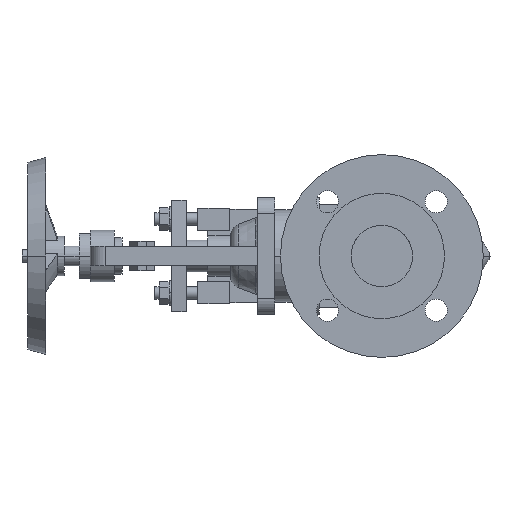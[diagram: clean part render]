
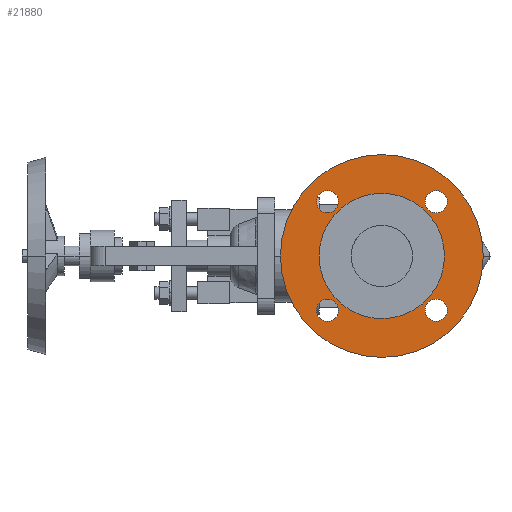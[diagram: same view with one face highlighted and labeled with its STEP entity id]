
A CAD part, left-side view. The second image highlights one B-rep face of the part: STEP entity #21880.
In plain terms, the highlighted planar face has unit normal (-1, 0, 0).
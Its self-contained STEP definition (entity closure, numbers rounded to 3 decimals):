
#3160=CARTESIAN_POINT('',(3.,-51.,0.));
#3170=VERTEX_POINT('',#3160);
#3200=CARTESIAN_POINT('',(3.,0.,0.));
#3210=DIRECTION('',(-1.,0.,0.));
#3220=DIRECTION('',(0.,1.,0.));
#3230=AXIS2_PLACEMENT_3D('',#3200,#3210,#3220);
#3240=CIRCLE('',#3230,51.);
#3250=CARTESIAN_POINT('',(3.,51.,0.));
#3260=VERTEX_POINT('',#3250);
#3270=EDGE_CURVE('',#3260,#3170,#3240,.T.);
#4670=CARTESIAN_POINT('',(3.,0.,82.5));
#4680=VERTEX_POINT('',#4670);
#4710=CARTESIAN_POINT('',(3.,0.,0.));
#4720=DIRECTION('',(1.,0.,0.));
#4730=DIRECTION('',(0.,0.,-1.));
#4740=AXIS2_PLACEMENT_3D('',#4710,#4720,#4730);
#4750=CIRCLE('',#4740,82.5);
#4760=CARTESIAN_POINT('',(3.,0.,-82.5));
#4770=VERTEX_POINT('',#4760);
#4780=EDGE_CURVE('',#4770,#4680,#4750,.T.);
#5160=CARTESIAN_POINT('',(3.,44.194,-53.194));
#5170=VERTEX_POINT('',#5160);
#5200=CARTESIAN_POINT('',(3.,44.194,-44.194));
#5210=DIRECTION('',(1.,0.,0.));
#5220=DIRECTION('',(0.,0.,-1.));
#5230=AXIS2_PLACEMENT_3D('',#5200,#5210,#5220);
#5240=CIRCLE('',#5230,9.);
#5250=CARTESIAN_POINT('',(3.,44.194,-35.194));
#5260=VERTEX_POINT('',#5250);
#5270=EDGE_CURVE('',#5170,#5260,#5240,.T.);
#5650=CARTESIAN_POINT('',(3.,-44.194,-53.194));
#5660=VERTEX_POINT('',#5650);
#5820=CARTESIAN_POINT('',(3.,-44.194,-35.194));
#5830=VERTEX_POINT('',#5820);
#5860=CARTESIAN_POINT('',(3.,-44.194,-44.194));
#5870=DIRECTION('',(1.,0.,0.));
#5880=DIRECTION('',(0.,0.,-1.));
#5890=AXIS2_PLACEMENT_3D('',#5860,#5870,#5880);
#5900=CIRCLE('',#5890,9.);
#5910=EDGE_CURVE('',#5830,#5660,#5900,.T.);
#6140=CARTESIAN_POINT('',(3.,-44.194,53.194));
#6150=VERTEX_POINT('',#6140);
#6310=CARTESIAN_POINT('',(3.,-44.194,35.194));
#6320=VERTEX_POINT('',#6310);
#6350=CARTESIAN_POINT('',(3.,-44.194,44.194));
#6360=DIRECTION('',(1.,0.,0.));
#6370=DIRECTION('',(0.,0.,-1.));
#6380=AXIS2_PLACEMENT_3D('',#6350,#6360,#6370);
#6390=CIRCLE('',#6380,9.);
#6400=EDGE_CURVE('',#6320,#6150,#6390,.T.);
#6630=CARTESIAN_POINT('',(3.,44.194,53.194));
#6640=VERTEX_POINT('',#6630);
#6670=CARTESIAN_POINT('',(3.,44.194,44.194));
#6680=DIRECTION('',(1.,0.,0.));
#6690=DIRECTION('',(0.,0.,-1.));
#6700=AXIS2_PLACEMENT_3D('',#6670,#6680,#6690);
#6710=CIRCLE('',#6700,9.);
#6720=CARTESIAN_POINT('',(3.,44.194,35.194));
#6730=VERTEX_POINT('',#6720);
#6740=EDGE_CURVE('',#6640,#6730,#6710,.T.);
#21530=CARTESIAN_POINT('',(3.,0.,0.));
#21540=DIRECTION('',(1.,0.,0.));
#21550=DIRECTION('',(0.,0.,-1.));
#21560=AXIS2_PLACEMENT_3D('',#21530,#21540,#21550);
#21570=PLANE('',#21560);
#21580=ORIENTED_EDGE('',*,*,#6740,.T.);
#21590=EDGE_CURVE('',#6730,#6640,#6710,.T.);
#21600=ORIENTED_EDGE('',*,*,#21590,.T.);
#21610=EDGE_LOOP('',(#21600,#21580));
#21620=FACE_BOUND('',#21610,.T.);
#21630=EDGE_CURVE('',#6150,#6320,#6390,.T.);
#21640=ORIENTED_EDGE('',*,*,#21630,.T.);
#21650=ORIENTED_EDGE('',*,*,#6400,.T.);
#21660=EDGE_LOOP('',(#21650,#21640));
#21670=FACE_BOUND('',#21660,.T.);
#21680=EDGE_CURVE('',#5660,#5830,#5900,.T.);
#21690=ORIENTED_EDGE('',*,*,#21680,.T.);
#21700=ORIENTED_EDGE('',*,*,#5910,.T.);
#21710=EDGE_LOOP('',(#21700,#21690));
#21720=FACE_BOUND('',#21710,.T.);
#21730=EDGE_CURVE('',#5260,#5170,#5240,.T.);
#21740=ORIENTED_EDGE('',*,*,#21730,.T.);
#21750=ORIENTED_EDGE('',*,*,#5270,.T.);
#21760=EDGE_LOOP('',(#21750,#21740));
#21770=FACE_BOUND('',#21760,.T.);
#21780=ORIENTED_EDGE('',*,*,#4780,.F.);
#21790=EDGE_CURVE('',#4680,#4770,#4750,.T.);
#21800=ORIENTED_EDGE('',*,*,#21790,.F.);
#21810=EDGE_LOOP('',(#21800,#21780));
#21820=FACE_OUTER_BOUND('',#21810,.T.);
#21830=ORIENTED_EDGE('',*,*,#3270,.F.);
#21840=EDGE_CURVE('',#3170,#3260,#3240,.T.);
#21850=ORIENTED_EDGE('',*,*,#21840,.F.);
#21860=EDGE_LOOP('',(#21850,#21830));
#21870=FACE_BOUND('',#21860,.T.);
#21880=ADVANCED_FACE('',(#21620,#21670,#21720,#21770,#21820,#21870),
#21570,.F.);
